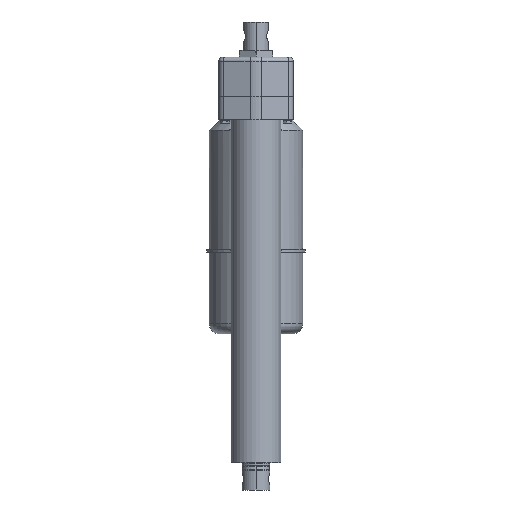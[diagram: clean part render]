
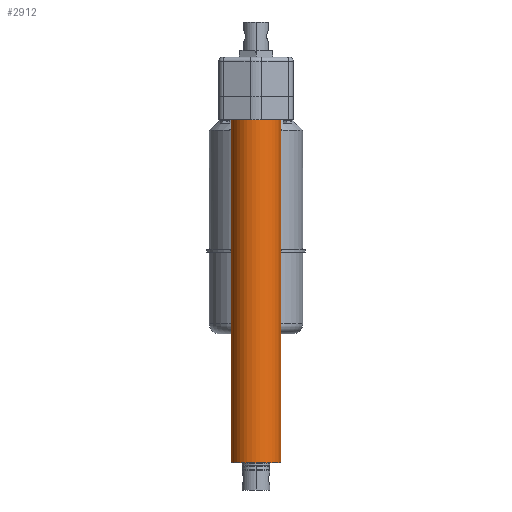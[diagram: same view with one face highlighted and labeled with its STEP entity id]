
A CAD part, front view. The second image highlights one B-rep face of the part: STEP entity #2912.
In plain terms, the highlighted cylindrical face has radius 25.65 mm (diameter 51.3 mm), a partial arc.
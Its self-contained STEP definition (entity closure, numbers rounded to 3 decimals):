
#873 = EDGE_CURVE ( 'NONE', #4111, #4035, #1776, .T. ) ;
#874 = EDGE_CURVE ( 'NONE', #4035, #4138, #1775, .T. ) ;
#876 = EDGE_CURVE ( 'NONE', #4111, #4127, #1773, .T. ) ;
#878 = EDGE_CURVE ( 'NONE', #4138, #4127, #1782, .T. ) ;
#1627 = AXIS2_PLACEMENT_3D ( 'NONE', #5082, #5088, #5089 ) ;
#1634 = AXIS2_PLACEMENT_3D ( 'NONE', #5075, #5076, #5077 ) ;
#1771 = VECTOR ( 'NONE', #5084, 1000. ) ;
#1772 = VECTOR ( 'NONE', #5078, 1000. ) ;
#1773 = LINE ( 'NONE', #5083, #1771 ) ;
#1775 = LINE ( 'NONE', #5070, #1772 ) ;
#1776 = CIRCLE ( 'NONE', #1634, 25.65 ) ;
#1782 = CIRCLE ( 'NONE', #1627, 25.65 ) ;
#2513 = EDGE_LOOP ( 'NONE', ( #3506, #3507, #3508, #3509 ) ) ;
#2639 = AXIS2_PLACEMENT_3D ( 'NONE', #6564, #6563, #6562 ) ;
#2912 = ADVANCED_FACE ( 'NONE', ( #3632 ), #3636, .T. ) ;
#3506 = ORIENTED_EDGE ( 'NONE', *, *, #874, .F. ) ;
#3507 = ORIENTED_EDGE ( 'NONE', *, *, #873, .F. ) ;
#3508 = ORIENTED_EDGE ( 'NONE', *, *, #876, .T. ) ;
#3509 = ORIENTED_EDGE ( 'NONE', *, *, #878, .F. ) ;
#3632 = FACE_OUTER_BOUND ( 'NONE', #2513, .T. ) ;
#3636 = CYLINDRICAL_SURFACE ( 'NONE', #2639, 25.65 ) ;
#4035 = VERTEX_POINT ( 'NONE', #7293 ) ;
#4111 = VERTEX_POINT ( 'NONE', #7369 ) ;
#4127 = VERTEX_POINT ( 'NONE', #7385 ) ;
#4138 = VERTEX_POINT ( 'NONE', #7396 ) ;
#5070 = CARTESIAN_POINT ( 'NONE',  ( -25.65, 0., -72.549 ) ) ;
#5075 = CARTESIAN_POINT ( 'NONE',  ( 0., 0., 0. ) ) ;
#5076 = DIRECTION ( 'NONE',  ( 0., 0., -1. ) ) ;
#5077 = DIRECTION ( 'NONE',  ( 1., 0., 0. ) ) ;
#5078 = DIRECTION ( 'NONE',  ( 0., 0., 1. ) ) ;
#5082 = CARTESIAN_POINT ( 'NONE',  ( 0., 0., 352.1 ) ) ;
#5083 = CARTESIAN_POINT ( 'NONE',  ( 25.65, 0., -72.549 ) ) ;
#5084 = DIRECTION ( 'NONE',  ( 0., 0., 1. ) ) ;
#5088 = DIRECTION ( 'NONE',  ( 0., 0., 1. ) ) ;
#5089 = DIRECTION ( 'NONE',  ( 1., 0., 0. ) ) ;
#6562 = DIRECTION ( 'NONE',  ( 1., 0., 0. ) ) ;
#6563 = DIRECTION ( 'NONE',  ( 0., 0., 1. ) ) ;
#6564 = CARTESIAN_POINT ( 'NONE',  ( 0., 0., -72.549 ) ) ;
#7293 = CARTESIAN_POINT ( 'NONE',  ( -25.65, 0., 0. ) ) ;
#7369 = CARTESIAN_POINT ( 'NONE',  ( 25.65, 0., 0. ) ) ;
#7385 = CARTESIAN_POINT ( 'NONE',  ( 25.65, 0., 352.1 ) ) ;
#7396 = CARTESIAN_POINT ( 'NONE',  ( -25.65, 0., 352.1 ) ) ;
